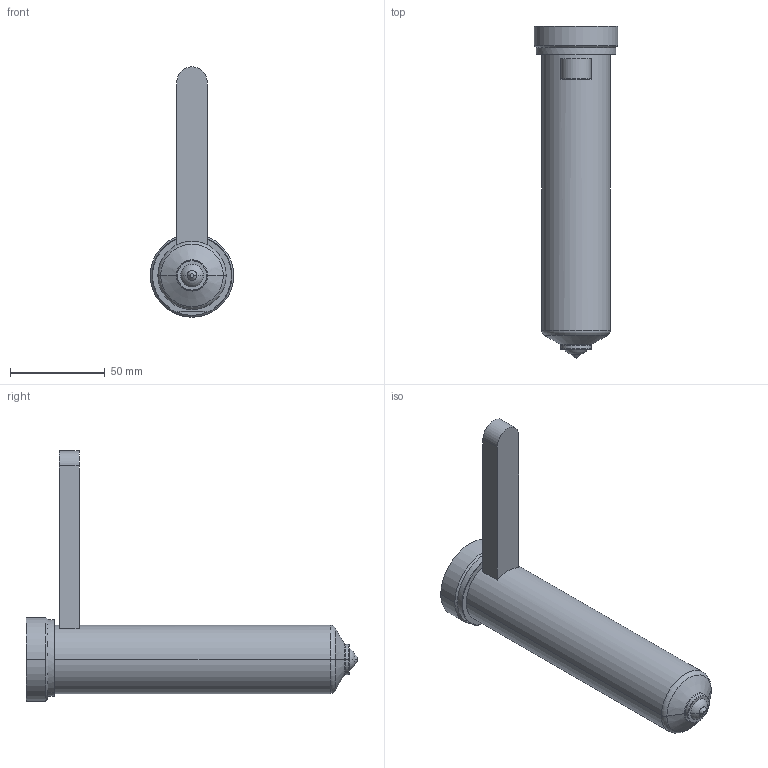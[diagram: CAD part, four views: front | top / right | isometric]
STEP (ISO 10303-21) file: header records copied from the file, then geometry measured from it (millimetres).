
FILE_DESCRIPTION((''),'2;1');
FILE_NAME('EO12_PG-BL_STD_160_COT','2024-02-19T11:12:55',('sundharh'),(''),'CREO PARAMETRIC BY PTC INC, 2023154','CREO PARAMETRIC BY PTC INC, 2023154','');
FILE_SCHEMA(('CONFIG_CONTROL_DESIGN'));
Length unit declared in the file: millimetre
Products named in the file (1): EO12_PG-BL_STD_160_COT
Bounding box: 44 x 175 x 132 mm (x, y, z)
Volume: 191201 mm3; surface area: 26695.3 mm2
Topology: 1 solids, 1 shells, 40 faces, 85 edges, 50 vertices
Faces by surface type: cylinder 13, plane 10, torus 9, cone 6, sphere 2
Entity records: 1185 total; most frequent: CARTESIAN_POINT 255, DIRECTION 209, ORIENTED_EDGE 170, AXIS2_PLACEMENT_3D 90, EDGE_CURVE 85, VERTEX_POINT 50, CIRCLE 50, EDGE_LOOP 43
